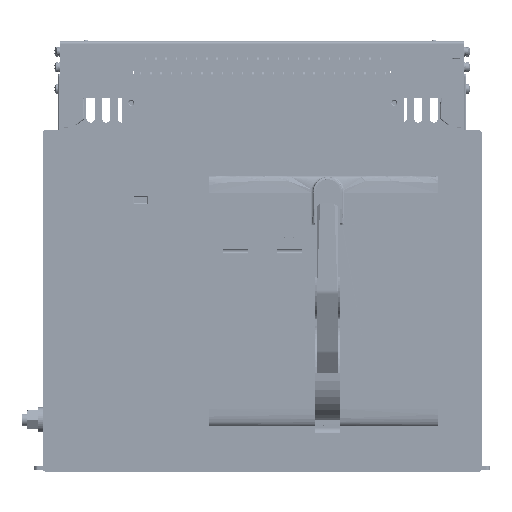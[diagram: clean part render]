
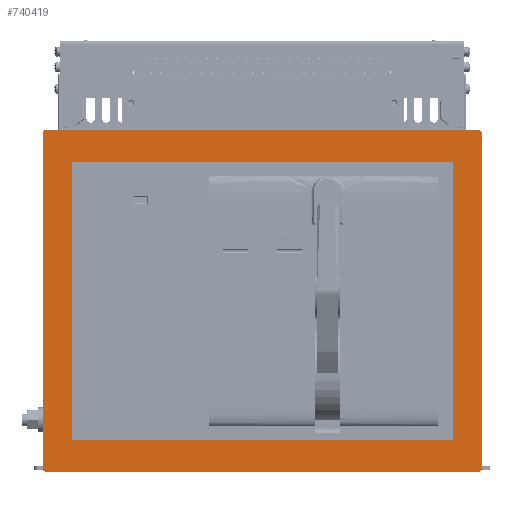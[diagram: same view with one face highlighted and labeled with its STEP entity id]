
A CAD part, top view. The second image highlights one B-rep face of the part: STEP entity #740419.
In plain terms, the highlighted planar face has unit normal (0, 0, 1) as drawn and (0, 1, 0) by its records, which use the part's own axes.
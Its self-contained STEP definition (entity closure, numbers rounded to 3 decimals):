
#302 = VECTOR ( 'NONE', #614679, 1000. ) ;
#487 = VERTEX_POINT ( 'NONE', #716031 ) ;
#2048 = DIRECTION ( 'NONE',  ( 0., 0., -1. ) ) ;
#11462 = CIRCLE ( 'NONE', #355727, 2. ) ;
#15387 = EDGE_LOOP ( 'NONE', ( #185185, #318168, #418554, #680702 ) ) ;
#27191 = DIRECTION ( 'NONE',  ( 1., 0., 0. ) ) ;
#43000 = EDGE_CURVE ( 'NONE', #155651, #569556, #150422, .T. ) ;
#68257 = DIRECTION ( 'NONE',  ( 0., 1., 0. ) ) ;
#72648 = LINE ( 'NONE', #258779, #212506 ) ;
#80389 = DIRECTION ( 'NONE',  ( 0., 1., 0. ) ) ;
#82741 = EDGE_CURVE ( 'NONE', #197402, #595045, #773968, .T. ) ;
#85016 = PLANE ( 'NONE',  #281828 ) ;
#93139 = DIRECTION ( 'NONE',  ( 0., 1., 0. ) ) ;
#119047 = AXIS2_PLACEMENT_3D ( 'NONE', #305262, #243179, #181114 ) ;
#122128 = CARTESIAN_POINT ( 'NONE',  ( -183., 11., -134. ) ) ;
#129913 = DIRECTION ( 'NONE',  ( -1., 0., 0. ) ) ;
#138063 = CARTESIAN_POINT ( 'NONE',  ( 209., 11., 164. ) ) ;
#146469 = CARTESIAN_POINT ( 'NONE',  ( 209., 11., 162. ) ) ;
#147025 = CARTESIAN_POINT ( 'NONE',  ( 0., 11., 0. ) ) ;
#150422 = CIRCLE ( 'NONE', #256135, 2. ) ;
#155651 = VERTEX_POINT ( 'NONE', #138063 ) ;
#160974 = EDGE_CURVE ( 'NONE', #730274, #576012, #556706, .T. ) ;
#181114 = DIRECTION ( 'NONE',  ( 1., 0., 0. ) ) ;
#185185 = ORIENTED_EDGE ( 'NONE', *, *, #713753, .F. ) ;
#197402 = VERTEX_POINT ( 'NONE', #520347 ) ;
#208671 = EDGE_CURVE ( 'NONE', #653853, #218466, #358853, .T. ) ;
#212506 = VECTOR ( 'NONE', #573296, 1000. ) ;
#217766 = ORIENTED_EDGE ( 'NONE', *, *, #670838, .T. ) ;
#218466 = VERTEX_POINT ( 'NONE', #335583 ) ;
#223242 = CARTESIAN_POINT ( 'NONE',  ( 209., 11., -164. ) ) ;
#243179 = DIRECTION ( 'NONE',  ( 0., 1., 0. ) ) ;
#243869 = CARTESIAN_POINT ( 'NONE',  ( -183., 11., -134. ) ) ;
#254024 = LINE ( 'NONE', #444324, #453438 ) ;
#256135 = AXIS2_PLACEMENT_3D ( 'NONE', #146469, #80389, #270597 ) ;
#258779 = CARTESIAN_POINT ( 'NONE',  ( -211., 11., -162. ) ) ;
#270597 = DIRECTION ( 'NONE',  ( 0., 0., 1. ) ) ;
#274203 = ORIENTED_EDGE ( 'NONE', *, *, #304565, .T. ) ;
#281828 = AXIS2_PLACEMENT_3D ( 'NONE', #147025, #93139, #477744 ) ;
#283403 = FACE_OUTER_BOUND ( 'NONE', #601925, .T. ) ;
#294348 = CARTESIAN_POINT ( 'NONE',  ( -209., 11., 162. ) ) ;
#302067 = EDGE_CURVE ( 'NONE', #588292, #720050, #736122, .T. ) ;
#304565 = EDGE_CURVE ( 'NONE', #487, #588292, #673635, .T. ) ;
#305262 = CARTESIAN_POINT ( 'NONE',  ( 209., 11., -162. ) ) ;
#312941 = VECTOR ( 'NONE', #540474, 1000. ) ;
#318168 = ORIENTED_EDGE ( 'NONE', *, *, #82741, .F. ) ;
#325457 = ORIENTED_EDGE ( 'NONE', *, *, #208671, .T. ) ;
#335349 = EDGE_CURVE ( 'NONE', #218466, #155651, #337466, .T. ) ;
#335583 = CARTESIAN_POINT ( 'NONE',  ( -209., 11., 164. ) ) ;
#337466 = LINE ( 'NONE', #776156, #518715 ) ;
#355727 = AXIS2_PLACEMENT_3D ( 'NONE', #394833, #68257, #2048 ) ;
#356722 = VERTEX_POINT ( 'NONE', #597486 ) ;
#358853 = CIRCLE ( 'NONE', #464620, 2. ) ;
#394833 = CARTESIAN_POINT ( 'NONE',  ( -209., 11., -162. ) ) ;
#406657 = DIRECTION ( 'NONE',  ( 0., 0., -1. ) ) ;
#409709 = VECTOR ( 'NONE', #607943, 1000. ) ;
#418554 = ORIENTED_EDGE ( 'NONE', *, *, #617574, .F. ) ;
#420360 = CARTESIAN_POINT ( 'NONE',  ( 211., 11., 162. ) ) ;
#426634 = DIRECTION ( 'NONE',  ( -1., 0., 0. ) ) ;
#428614 = ORIENTED_EDGE ( 'NONE', *, *, #459196, .T. ) ;
#444324 = CARTESIAN_POINT ( 'NONE',  ( 183., 11., -134. ) ) ;
#453438 = VECTOR ( 'NONE', #129913, 1000. ) ;
#458010 = LINE ( 'NONE', #747020, #312941 ) ;
#459196 = EDGE_CURVE ( 'NONE', #356722, #653853, #72648, .T. ) ;
#462353 = ORIENTED_EDGE ( 'NONE', *, *, #302067, .T. ) ;
#464620 = AXIS2_PLACEMENT_3D ( 'NONE', #294348, #488774, #426634 ) ;
#472737 = CARTESIAN_POINT ( 'NONE',  ( 211., 11., 162. ) ) ;
#477602 = CARTESIAN_POINT ( 'NONE',  ( -209., 11., -164. ) ) ;
#477744 = DIRECTION ( 'NONE',  ( 1., 0., 0. ) ) ;
#488774 = DIRECTION ( 'NONE',  ( 0., 1., 0. ) ) ;
#518457 = CARTESIAN_POINT ( 'NONE',  ( -183., 11., 134. ) ) ;
#518715 = VECTOR ( 'NONE', #27191, 1000. ) ;
#520347 = CARTESIAN_POINT ( 'NONE',  ( 183., 11., 134. ) ) ;
#538465 = CARTESIAN_POINT ( 'NONE',  ( 183., 11., -134. ) ) ;
#540474 = DIRECTION ( 'NONE',  ( 1., 0., 0. ) ) ;
#549076 = VECTOR ( 'NONE', #406657, 1000. ) ;
#551231 = ORIENTED_EDGE ( 'NONE', *, *, #335349, .T. ) ;
#556706 = LINE ( 'NONE', #122128, #302 ) ;
#569556 = VERTEX_POINT ( 'NONE', #420360 ) ;
#573296 = DIRECTION ( 'NONE',  ( 0., 0., 1. ) ) ;
#576012 = VERTEX_POINT ( 'NONE', #518457 ) ;
#588180 = EDGE_CURVE ( 'NONE', #569556, #487, #642727, .T. ) ;
#588292 = VERTEX_POINT ( 'NONE', #733226 ) ;
#595045 = VERTEX_POINT ( 'NONE', #538465 ) ;
#596117 = CARTESIAN_POINT ( 'NONE',  ( -211., 11., 162. ) ) ;
#597486 = CARTESIAN_POINT ( 'NONE',  ( -211., 11., -162. ) ) ;
#601925 = EDGE_LOOP ( 'NONE', ( #462353, #217766, #428614, #325457, #551231, #629256, #671174, #274203 ) ) ;
#607943 = DIRECTION ( 'NONE',  ( -1., 0., 0. ) ) ;
#614679 = DIRECTION ( 'NONE',  ( 0., 0., 1. ) ) ;
#617574 = EDGE_CURVE ( 'NONE', #576012, #197402, #458010, .T. ) ;
#629256 = ORIENTED_EDGE ( 'NONE', *, *, #43000, .T. ) ;
#641642 = DIRECTION ( 'NONE',  ( 0., 0., -1. ) ) ;
#642727 = LINE ( 'NONE', #472737, #549076 ) ;
#653841 = CARTESIAN_POINT ( 'NONE',  ( 183., 11., 134. ) ) ;
#653853 = VERTEX_POINT ( 'NONE', #596117 ) ;
#670838 = EDGE_CURVE ( 'NONE', #720050, #356722, #11462, .T. ) ;
#671174 = ORIENTED_EDGE ( 'NONE', *, *, #588180, .T. ) ;
#673635 = CIRCLE ( 'NONE', #119047, 2. ) ;
#680702 = ORIENTED_EDGE ( 'NONE', *, *, #160974, .F. ) ;
#710583 = VECTOR ( 'NONE', #641642, 1000. ) ;
#713753 = EDGE_CURVE ( 'NONE', #595045, #730274, #254024, .T. ) ;
#713772 = FACE_BOUND ( 'NONE', #15387, .T. ) ;
#716031 = CARTESIAN_POINT ( 'NONE',  ( 211., 11., -162. ) ) ;
#720050 = VERTEX_POINT ( 'NONE', #477602 ) ;
#730274 = VERTEX_POINT ( 'NONE', #243869 ) ;
#733226 = CARTESIAN_POINT ( 'NONE',  ( 209., 11., -164. ) ) ;
#736122 = LINE ( 'NONE', #223242, #409709 ) ;
#740419 = ADVANCED_FACE ( 'NONE', ( #713772, #283403 ), #85016, .T. ) ;
#747020 = CARTESIAN_POINT ( 'NONE',  ( -183., 11., 134. ) ) ;
#773968 = LINE ( 'NONE', #653841, #710583 ) ;
#776156 = CARTESIAN_POINT ( 'NONE',  ( -209., 11., 164. ) ) ;
